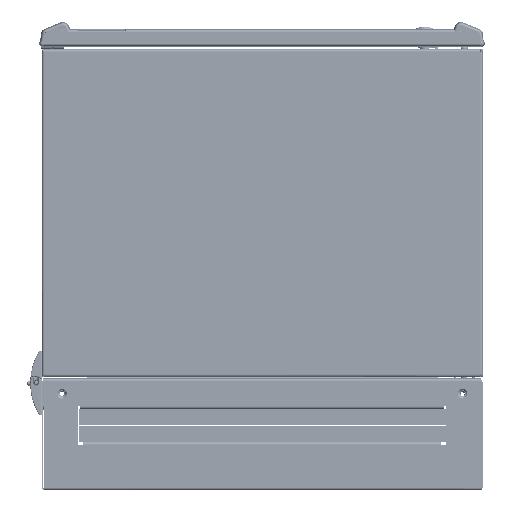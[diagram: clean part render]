
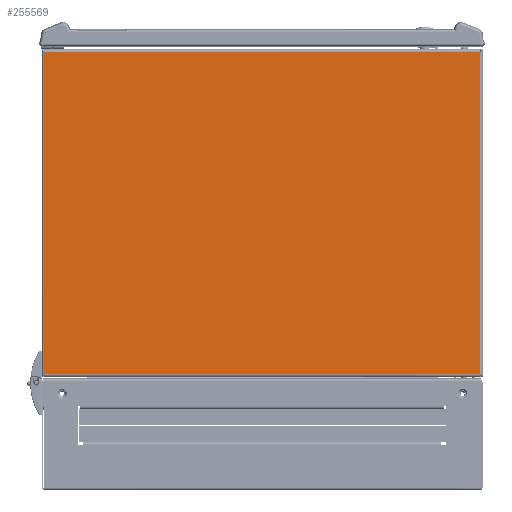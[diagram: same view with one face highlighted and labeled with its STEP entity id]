
A CAD part, front view. The second image highlights one B-rep face of the part: STEP entity #255569.
In plain terms, the highlighted planar face has unit normal (0, -1, 0) as drawn and (0, 1, 0) by its records, which use the part's own axes.
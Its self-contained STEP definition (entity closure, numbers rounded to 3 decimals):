
#4992 = DIRECTION ( 'NONE',  ( 0., 1., 0. ) ) ;
#15168 = CARTESIAN_POINT ( 'NONE',  ( -296.647, 0., 219.547 ) ) ;
#18061 = VERTEX_POINT ( 'NONE', #121627 ) ;
#35810 = DIRECTION ( 'NONE',  ( 1., 0., 0. ) ) ;
#39101 = EDGE_LOOP ( 'NONE', ( #46545, #55899, #100705, #94889 ) ) ;
#46545 = ORIENTED_EDGE ( 'NONE', *, *, #177520, .T. ) ;
#52177 = CARTESIAN_POINT ( 'NONE',  ( 296.647, 0., 222.9 ) ) ;
#53066 = DIRECTION ( 'NONE',  ( 0., 0., -1. ) ) ;
#53767 = LINE ( 'NONE', #193558, #211374 ) ;
#55899 = ORIENTED_EDGE ( 'NONE', *, *, #194033, .T. ) ;
#76315 = VECTOR ( 'NONE', #250302, 1000. ) ;
#82716 = LINE ( 'NONE', #229492, #76315 ) ;
#87603 = CARTESIAN_POINT ( 'NONE',  ( -296.647, 0., 219.547 ) ) ;
#88238 = AXIS2_PLACEMENT_3D ( 'NONE', #168551, #4992, #148823 ) ;
#92122 = CARTESIAN_POINT ( 'NONE',  ( -296.647, 0., -219.547 ) ) ;
#94889 = ORIENTED_EDGE ( 'NONE', *, *, #266008, .T. ) ;
#100705 = ORIENTED_EDGE ( 'NONE', *, *, #152716, .F. ) ;
#114375 = VERTEX_POINT ( 'NONE', #123024 ) ;
#121627 = CARTESIAN_POINT ( 'NONE',  ( 296.647, 0., 219.547 ) ) ;
#123024 = CARTESIAN_POINT ( 'NONE',  ( 296.647, 0., -219.547 ) ) ;
#128158 = PLANE ( 'NONE',  #88238 ) ;
#137055 = LINE ( 'NONE', #15168, #240065 ) ;
#144956 = VERTEX_POINT ( 'NONE', #92122 ) ;
#148823 = DIRECTION ( 'NONE',  ( 0., 0., 1. ) ) ;
#152716 = EDGE_CURVE ( 'NONE', #177988, #144956, #82716, .T. ) ;
#168551 = CARTESIAN_POINT ( 'NONE',  ( -300., 0., 222.9 ) ) ;
#177520 = EDGE_CURVE ( 'NONE', #18061, #114375, #263461, .T. ) ;
#177988 = VERTEX_POINT ( 'NONE', #87603 ) ;
#193558 = CARTESIAN_POINT ( 'NONE',  ( 296.647, 0., -219.547 ) ) ;
#194033 = EDGE_CURVE ( 'NONE', #114375, #144956, #53767, .T. ) ;
#208467 = VECTOR ( 'NONE', #53066, 1000. ) ;
#211374 = VECTOR ( 'NONE', #213376, 1000. ) ;
#213376 = DIRECTION ( 'NONE',  ( -1., 0., 0. ) ) ;
#229492 = CARTESIAN_POINT ( 'NONE',  ( -296.647, 0., 222.9 ) ) ;
#240065 = VECTOR ( 'NONE', #35810, 1000. ) ;
#241317 = FACE_OUTER_BOUND ( 'NONE', #39101, .T. ) ;
#250302 = DIRECTION ( 'NONE',  ( 0., 0., -1. ) ) ;
#255569 = ADVANCED_FACE ( 'NONE', ( #241317 ), #128158, .T. ) ;
#263461 = LINE ( 'NONE', #52177, #208467 ) ;
#266008 = EDGE_CURVE ( 'NONE', #177988, #18061, #137055, .T. ) ;
